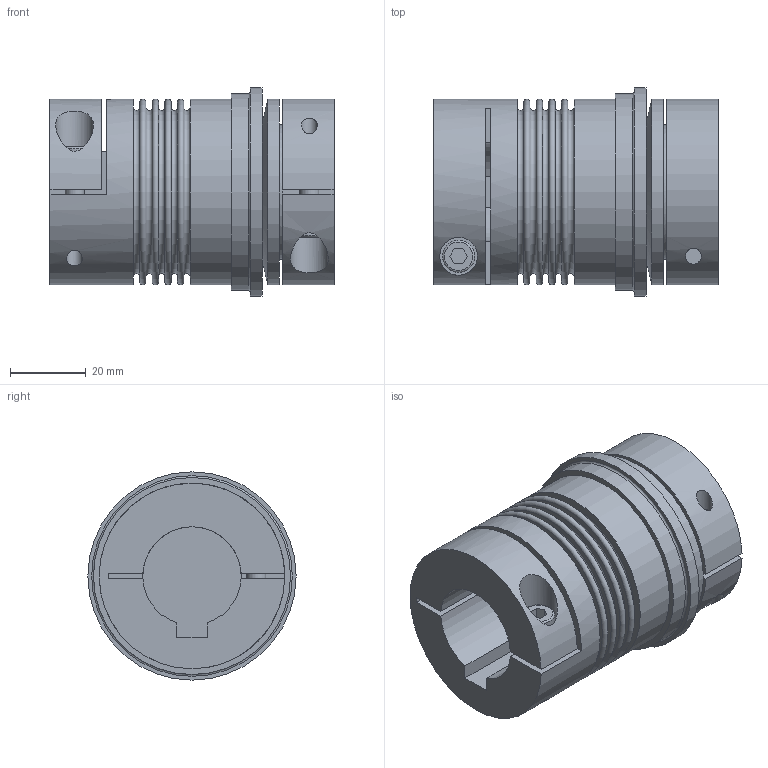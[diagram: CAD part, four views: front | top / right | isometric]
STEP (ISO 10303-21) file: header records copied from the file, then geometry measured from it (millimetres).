
FILE_DESCRIPTION(/* description */ ('STEP AP214'),/* implementation_level */ '2;1');
FILE_NAME(/* name */ 'C:\Diequa Files\DieQua Coupling\TB2\STP\TB2.15.75.WDG.#.#.stp',/* time_stamp */ '2019-04-26T10:39:34-05:00',/* author */ ('DiequaCAD'),/* organization */ (''),/* preprocessor_version */ 'ST-DEVELOPER v18',/* originating_system */ 'Autodesk Inventor 2020',/* authorisation */ ' ');
FILE_SCHEMA (('AUTOMOTIVE_DESIGN { 1 0 10303 214 3 1 1 }'));
Length unit declared in the file: millimetre
Products named in the file (1): TB2.15.75.WDG.#.#
Bounding box: 75 x 55 x 55 mm (x, y, z)
Volume: 111515.6 mm3; surface area: 30144.5 mm2
Topology: 1 solids, 1 shells, 90 faces, 212 edges, 148 vertices
Faces by surface type: plane 57, cylinder 20, torus 12, cone 1
Full cylindrical faces by diameter (mm): 4.2 x2, 5 x2, 5.5 x2, 8.5 x2, 10 x2, 35.5 x1, 49 x3, 52 x1, 55 x1
Entity records: 2857 total; most frequent: CARTESIAN_POINT 603, DIRECTION 491, ORIENTED_EDGE 424, EDGE_CURVE 212, AXIS2_PLACEMENT_3D 194, VERTEX_POINT 148, EDGE_LOOP 118, LINE 103
